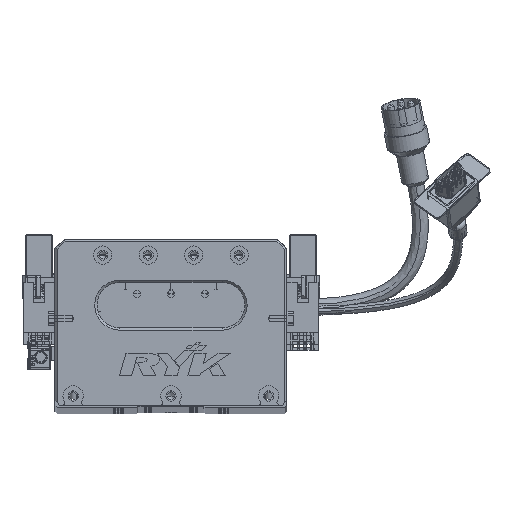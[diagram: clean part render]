
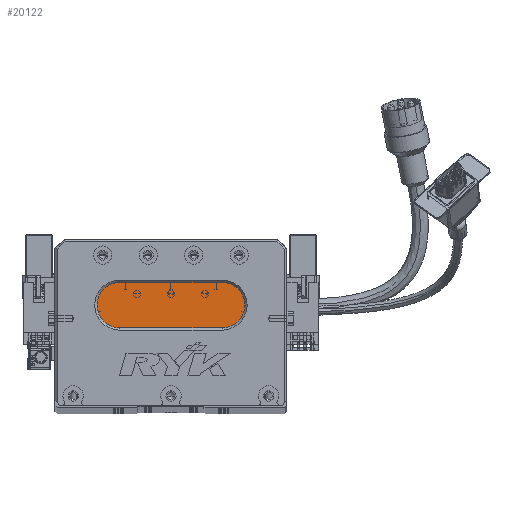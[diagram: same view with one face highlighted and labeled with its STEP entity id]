
A CAD part, top view. The second image highlights one B-rep face of the part: STEP entity #20122.
In plain terms, the highlighted planar face has unit normal (0, 0, 1) as drawn and (0, 0, -1) by its records, which use the part's own axes.
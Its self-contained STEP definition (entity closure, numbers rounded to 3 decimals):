
#1851 = CARTESIAN_POINT ( 'NONE',  ( 28.5, 54., 13. ) ) ;
#2578 = VERTEX_POINT ( 'NONE', #37427 ) ;
#3550 = DIRECTION ( 'NONE',  ( -1., 0., 0. ) ) ;
#7558 = VERTEX_POINT ( 'NONE', #1851 ) ;
#10576 = FACE_OUTER_BOUND ( 'NONE', #42683, .T. ) ;
#10584 = AXIS2_PLACEMENT_3D ( 'NONE', #69029, #33331, #3550 ) ;
#11187 = DIRECTION ( 'NONE',  ( -1., 0., 0. ) ) ;
#12758 = CARTESIAN_POINT ( 'NONE',  ( 73.5, 54., 13. ) ) ;
#13838 = LINE ( 'NONE', #58397, #22215 ) ;
#14783 = CIRCLE ( 'NONE', #10584, 10. ) ;
#15011 = PLANE ( 'NONE',  #16668 ) ;
#15688 = CIRCLE ( 'NONE', #61098, 10. ) ;
#16668 = AXIS2_PLACEMENT_3D ( 'NONE', #45043, #68737, #74975 ) ;
#18743 = VERTEX_POINT ( 'NONE', #61629 ) ;
#18744 = ORIENTED_EDGE ( 'NONE', *, *, #36259, .T. ) ;
#20122 = ADVANCED_FACE ( 'NONE', ( #10576 ), #15011, .T. ) ;
#22215 = VECTOR ( 'NONE', #11187, 1000. ) ;
#25919 = VECTOR ( 'NONE', #54481, 1000. ) ;
#26223 = EDGE_CURVE ( 'NONE', #47190, #7558, #14783, .T. ) ;
#26606 = EDGE_CURVE ( 'NONE', #2578, #47190, #15688, .T. ) ;
#29029 = CARTESIAN_POINT ( 'NONE',  ( 73.5, 44., 13. ) ) ;
#32020 = DIRECTION ( 'NONE',  ( -1., 0., 0. ) ) ;
#32543 = DIRECTION ( 'NONE',  ( 0., 0., -1. ) ) ;
#33331 = DIRECTION ( 'NONE',  ( 0., 0., -1. ) ) ;
#36259 = EDGE_CURVE ( 'NONE', #18743, #2578, #13838, .T. ) ;
#37195 = EDGE_CURVE ( 'NONE', #69967, #18743, #48238, .T. ) ;
#37427 = CARTESIAN_POINT ( 'NONE',  ( 28.5, 34., 13. ) ) ;
#38805 = ORIENTED_EDGE ( 'NONE', *, *, #26223, .T. ) ;
#42683 = EDGE_LOOP ( 'NONE', ( #64887, #18744, #53141, #38805, #75845 ) ) ;
#44018 = CARTESIAN_POINT ( 'NONE',  ( 28.5, 44., 13. ) ) ;
#45043 = CARTESIAN_POINT ( 'NONE',  ( 73.5, 44., 13. ) ) ;
#47190 = VERTEX_POINT ( 'NONE', #47862 ) ;
#47862 = CARTESIAN_POINT ( 'NONE',  ( 18.5, 44., 13. ) ) ;
#48238 = CIRCLE ( 'NONE', #49716, 10. ) ;
#49716 = AXIS2_PLACEMENT_3D ( 'NONE', #29029, #70698, #76666 ) ;
#53141 = ORIENTED_EDGE ( 'NONE', *, *, #26606, .T. ) ;
#54481 = DIRECTION ( 'NONE',  ( 1., 0., 0. ) ) ;
#58397 = CARTESIAN_POINT ( 'NONE',  ( 73.5, 34., 13. ) ) ;
#61098 = AXIS2_PLACEMENT_3D ( 'NONE', #44018, #32543, #32020 ) ;
#61629 = CARTESIAN_POINT ( 'NONE',  ( 73.5, 34., 13. ) ) ;
#64887 = ORIENTED_EDGE ( 'NONE', *, *, #37195, .T. ) ;
#68737 = DIRECTION ( 'NONE',  ( 0., 0., -1. ) ) ;
#69029 = CARTESIAN_POINT ( 'NONE',  ( 28.5, 44., 13. ) ) ;
#69967 = VERTEX_POINT ( 'NONE', #71917 ) ;
#70698 = DIRECTION ( 'NONE',  ( 0., 0., -1. ) ) ;
#71917 = CARTESIAN_POINT ( 'NONE',  ( 73.5, 54., 13. ) ) ;
#72511 = LINE ( 'NONE', #12758, #25919 ) ;
#74975 = DIRECTION ( 'NONE',  ( -1., 0., 0. ) ) ;
#75845 = ORIENTED_EDGE ( 'NONE', *, *, #76999, .T. ) ;
#76666 = DIRECTION ( 'NONE',  ( -1., 0., 0. ) ) ;
#76999 = EDGE_CURVE ( 'NONE', #7558, #69967, #72511, .T. ) ;
